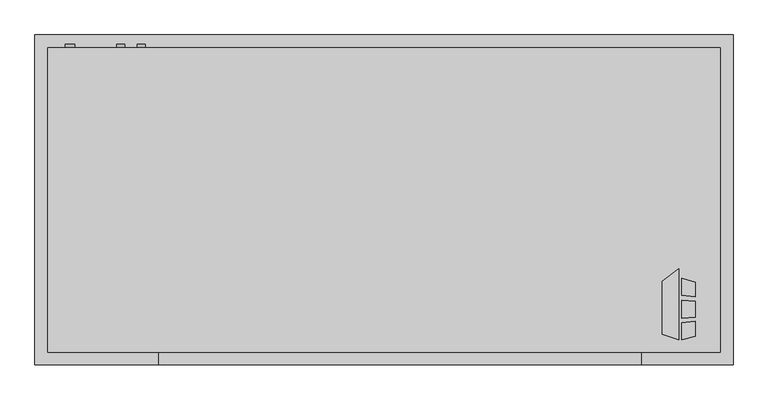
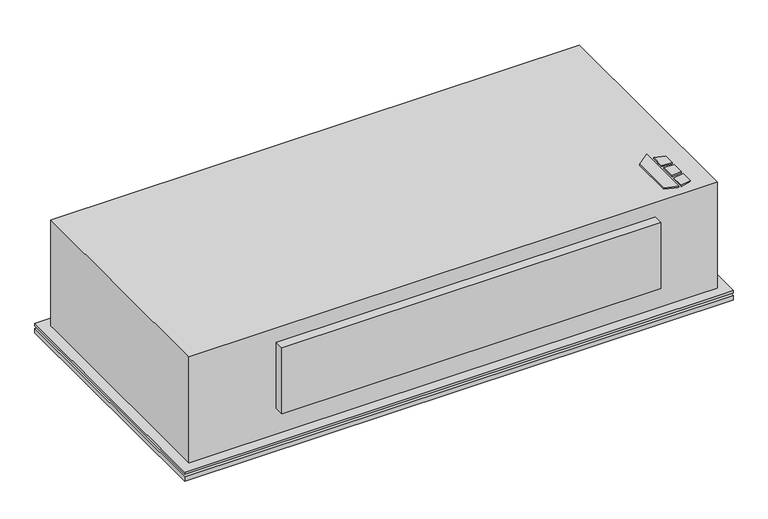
"""IFC4 building model written with IfcOpenShell, lengths in millimetres: proxy geometry, Horizontal_Telescoping_Fan_Coil_Unit_-_CBY_-_IEC_-_2-Pipe_Cool-EHeat_LH_2022 : Size 08 - 277v/60Hz/1Ph - 4 Row 6.0kW."""

from ifc_helpers import new_model, si_unit, point, frame, frame_2d, origin, origin_with_axes, place, context, project, spatial, polyline, circle_curve, trimmed, segment, composite_curve, outline, extrude, source, transform, mapped, element, save


def mechanical_equipment_3ef22b79(model_context):
    return source(origin(), model_context, "Body", "SweptSolid", [
        extrude(outline(polyline([(709.3019761, -401.0078476), (741.8602728, -375.5705184), (741.8602728, -517.525), (709.3019761, -507.3054201), (709.3019761, -401.0078476)])), origin_with_axes(), (0.0, 0.0, 1.0), 3.175),
        extrude(outline(polyline([(748.6186058, -428.879852), (748.6186058, -394.3999379), (774.7, -402.5865115), (774.7, -432.0822446), (748.6186058, -428.879852)])), origin_with_axes(), (0.0, 0.0, 1.0), 3.175),
        extrude(outline(polyline([(774.7, -510.5365115), (748.6186058, -517.525), (748.6186058, -484.3036996), (774.7, -480.7618564), (774.7, -510.5365115)])), origin_with_axes(), (0.0, 0.0, 1.0), 3.175),
        extrude(outline(polyline([(774.7, -441.1638277), (774.7, -472.413983), (748.6186058, -475.155248), (748.6186058, -439.2975378), (774.7, -441.1638277)])), origin_with_axes(), (0.0, 0.0, 1.0), 3.175),
        extrude(outline(composite_curve([segment(trimmed(circle_curve(frame_2d((-55.9967777, -333.375)), 7.9375), [point((-55.9967777, -325.4375))], [point((-55.9967777, -341.3125))], False, "CARTESIAN"), True, "CONTINUOUS"), segment(trimmed(circle_curve(frame_2d((-55.9967777, -333.375)), 7.9375), [point((-55.9967777, -341.3125))], [point((-55.9967777, -325.4375))], False, "CARTESIAN"), True, "CONTINUOUS")], self_intersect=False)), frame((0.0, 66.675, 0.0), z_axis=(0.0, 1.0, 0.0), x_axis=(0.0, 0.0, 1.0)), (0.0, 0.0, 1.0), 6.35),
        extrude(outline(composite_curve([segment(trimmed(circle_curve(frame_2d((-122.5981268, -374.65)), 7.9375), [point((-122.5981268, -366.7125))], [point((-122.5981268, -382.5875))], False, "CARTESIAN"), True, "CONTINUOUS"), segment(trimmed(circle_curve(frame_2d((-122.5981268, -374.65)), 7.9375), [point((-122.5981268, -382.5875))], [point((-122.5981268, -366.7125))], False, "CARTESIAN"), True, "CONTINUOUS")], self_intersect=False)), frame((0.0, 66.675, 0.0), z_axis=(0.0, 1.0, 0.0), x_axis=(0.0, 0.0, 1.0)), (0.0, 0.0, 1.0), 6.35),
        extrude(outline(composite_curve([segment(trimmed(circle_curve(frame_2d((-247.6037358, -476.25)), 9.525), [point((-247.6037358, -466.725))], [point((-247.6037358, -485.775))], False, "CARTESIAN"), True, "CONTINUOUS"), segment(trimmed(circle_curve(frame_2d((-247.6037358, -476.25)), 9.525), [point((-247.6037358, -485.775))], [point((-247.6037358, -466.725))], False, "CARTESIAN"), True, "CONTINUOUS")], self_intersect=False)), frame((0.0, 66.675, 0.0), z_axis=(0.0, 1.0, 0.0), x_axis=(0.0, 0.0, 1.0)), (0.0, 0.0, 1.0), 6.35),
        extrude(outline(polyline([(850.9, 92.075), (850.9, -568.325), (-546.1, -568.325), (-546.1, 92.075), (850.9, 92.075)])), frame((0.0, 0.0, -311.15), z_axis=(0.0, 0.0, 1.0), x_axis=(1.0, 0.0, 0.0)), (0.0, 0.0, 1.0), 12.7),
        extrude(outline(polyline([(850.9, 92.075), (850.9, -568.325), (-546.1, -568.325), (-546.1, 92.075), (850.9, 92.075)])), frame((0.0, 0.0, -292.1), z_axis=(0.0, 0.0, 1.0), x_axis=(1.0, 0.0, 0.0)), (0.0, 0.0, 1.0), 6.35),
        extrude(outline(polyline([(825.5, 66.675), (825.5, -542.925), (-520.7, -542.925), (-520.7, 66.675), (825.5, 66.675)])), frame((0.0, 0.0, -298.45), z_axis=(0.0, 0.0, 1.0), x_axis=(1.0, 0.0, 0.0)), (0.0, 0.0, 1.0), 6.35),
        extrude(outline(polyline([(666.75, -568.325), (-298.45, -568.325), (-298.45, -542.925), (666.75, -542.925), (666.75, -568.325)])), frame((0.0, 0.0, -215.9), z_axis=(0.0, 0.0, 1.0), x_axis=(1.0, 0.0, 0.0)), (0.0, 0.0, 1.0), 177.8),
        extrude(outline(polyline([(-520.7, 66.675), (825.5, 66.675), (825.5, -542.925), (-520.7, -542.925), (-520.7, 66.675)])), frame((0.0, 0.0, -285.75), z_axis=(0.0, 0.0, 1.0), x_axis=(1.0, 0.0, 0.0)), (0.0, 0.0, 1.0), 285.75),
        extrude(outline(polyline([(723.9, -9.525), (723.9, -263.525), (-419.1, -263.525), (-419.1, -9.525), (723.9, -9.525)])), frame((0.0, 0.0, -317.5), z_axis=(0.0, 0.0, 1.0), x_axis=(1.0, 0.0, 0.0)), (0.0, 0.0, 1.0), 6.35),
    ])


if __name__ == "__main__":
    model = new_model("IFC4")
    model_context = context("Model", 3, world=origin())
    ifc_project = project(units=[si_unit("LENGTHUNIT", "METRE", prefix="MILLI")], contexts=[model_context])
    site = spatial("IfcSite", under=ifc_project)
    building = spatial("IfcBuilding", under=site)
    placement = place(None, origin())
    mechanical_equipment_shape = mechanical_equipment_3ef22b79(model_context)
    element("IfcBuildingElementProxy", 1, Name="Horizontal_Telescoping_Fan_Coil_Unit_-_CBY_-_IEC_-_2-Pipe_Cool-EHeat_LH_2022 : Size 08 - 277v/60Hz/1Ph - 4 Row 6.0kW", ObjectType="Horizontal_Telescoping_Fan_Coil_Unit_-_CBY_-_IEC_-_2-Pipe_Cool-EHeat_LH_2022 : Size 08 - 277v/60Hz/1Ph - 4 Row 6.0kW", at=placement, inside=building, context=model_context, shape_type="MappedRepresentation", body=[
        mapped(mechanical_equipment_shape, transform((0.0, 0.0, 0.0), x_axis=(1.0, 0.0, 0.0), y_axis=(0.0, 1.0, 0.0), z_axis=(0.0, 0.0, 1.0))),
    ])
    save(model, "model.ifc")
